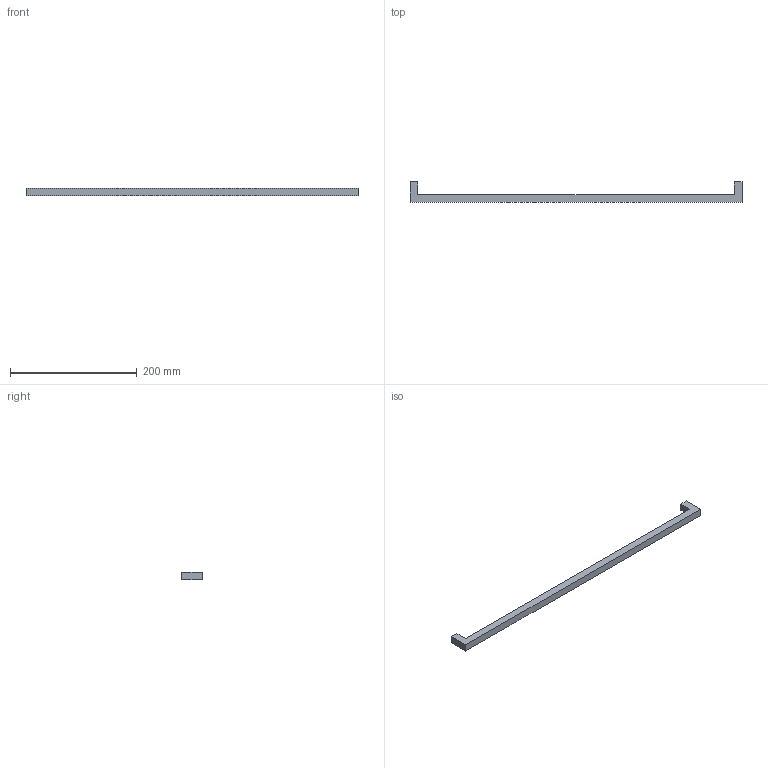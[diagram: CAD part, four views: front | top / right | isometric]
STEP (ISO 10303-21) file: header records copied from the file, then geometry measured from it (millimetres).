
FILE_DESCRIPTION( ( 'STEP AP214' ), '1' );
FILE_NAME( 'C:/Users/kulkarni/Desktop/Apurva/2015/Prodecor_2016/Cadfiles/same as files/Anzio/9207351.stp', ' ', ( ' ' ), ( ' ' ), 'PSStep 15.0.47', 'PARTsolutions', ' ' );
FILE_SCHEMA( ( 'AUTOMOTIVE_DESIGN { 1 0 10303 214 1 1 1 1 }' ) );
Length unit declared in the file: millimetre
Products named in the file (1): _9207351
Bounding box: 524 x 32 x 12 mm (x, y, z)
Volume: 80964.7 mm3; surface area: 27611.3 mm2
Topology: 1 solids, 1 shells, 14 faces, 30 edges, 20 vertices
Faces by surface type: plane 12, cylinder 2
Full cylindrical faces by diameter (mm): 4 x2
Entity records: 496 total; most frequent: CARTESIAN_POINT 63, DIRECTION 62, ORIENTED_EDGE 56, EDGE_CURVE 28, LINE 24, VECTOR 24, VERTEX_POINT 20, AXIS2_PLACEMENT_3D 19
